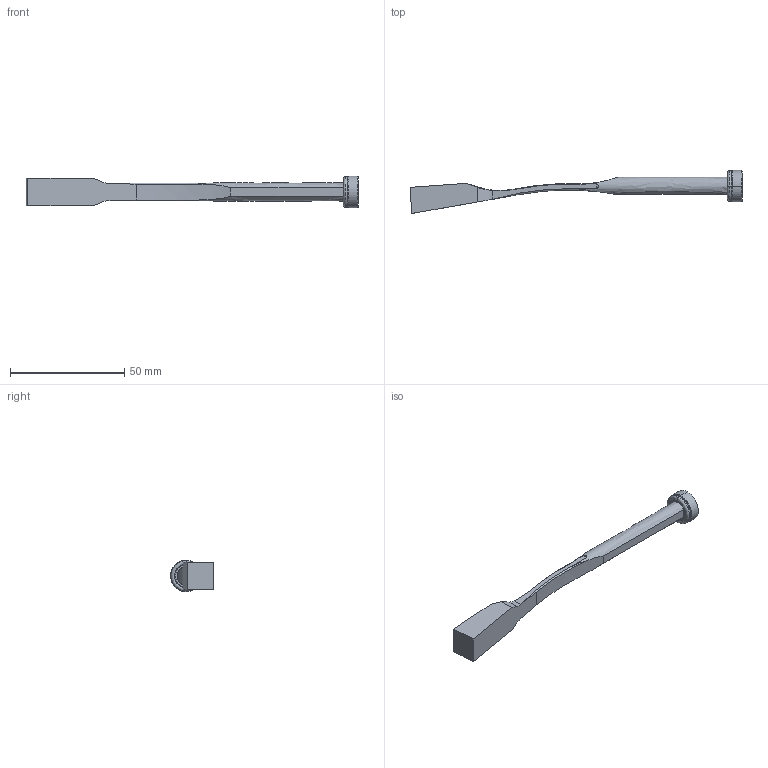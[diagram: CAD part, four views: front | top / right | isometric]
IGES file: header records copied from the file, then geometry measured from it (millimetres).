
Start section: START RECORD GO HERE.
Global section: file name: pw081225_ejection.igs; native system: DASSAULT SYSTEMES CATIA V5 R20 - www.3ds.com; preprocessor: CATIA Version 5 Release 20 ; author: Utente; organization: NB04-ASUS; date: 20201108.135442; units: millimetre
Bounding box: 145.52 x 18.87 x 13.8 mm (x, y, z)
Surface area: 5912.8 mm2 (no closed solid volume)
Topology: 0 solids, 0 shells, 95 faces, 432 edges, 428 vertices
Faces by surface type: revolution 58, plane 33, bspline 4
